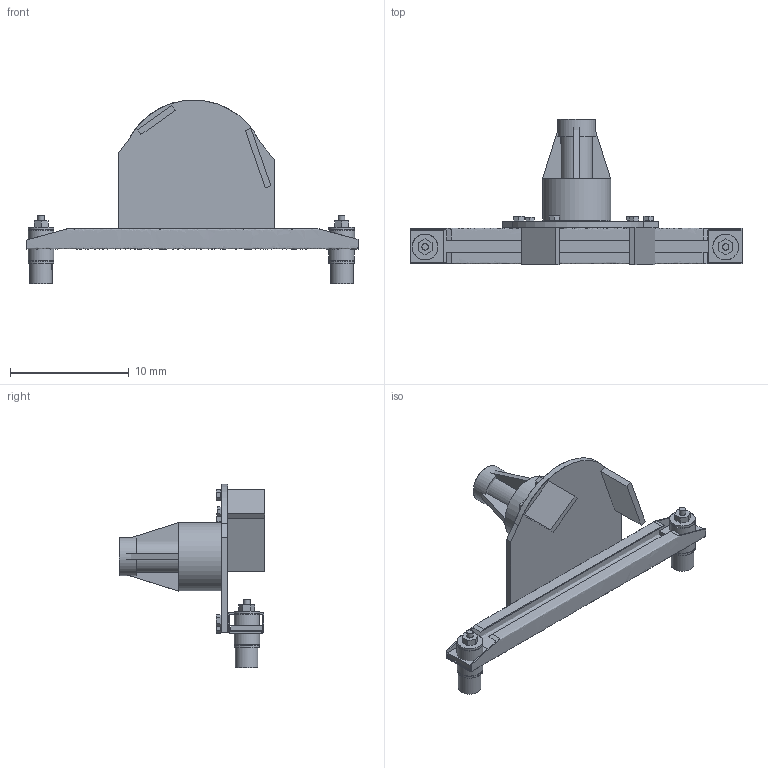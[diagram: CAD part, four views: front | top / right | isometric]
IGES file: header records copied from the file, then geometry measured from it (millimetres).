
Global section: file name: C:\3D-files2\Complete-intake\Box-beam-mm-psru.igs; native system: Rhinoceros ( Nov 11 2003 ); preprocessor: Trout Lake IGES 012 Nov 11 2003; date: 040825.133939; units: millimetre
Bounding box: 28 x 12.29 x 15.52 mm (x, y, z)
Surface area: 1233.1 mm2 (no closed solid volume)
Topology: 0 solids, 0 shells, 198 faces, 1084 edges, 1045 vertices
Faces by surface type: bspline 198
